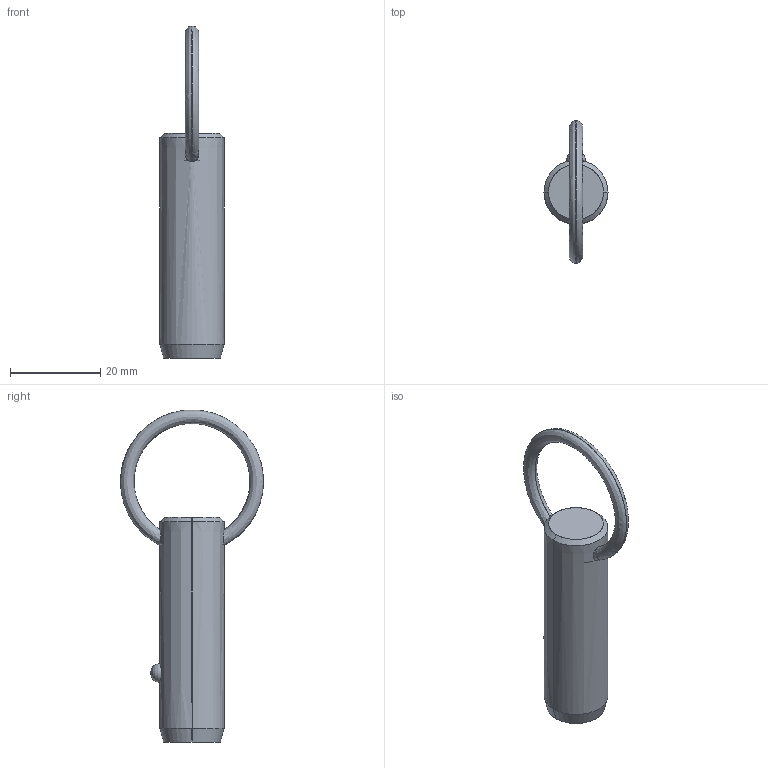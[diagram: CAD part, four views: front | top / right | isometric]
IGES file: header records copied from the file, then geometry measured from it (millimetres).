
Start section: SolidWorks IGES file using analytic representation for surfaces
Global section: file name: C:\Users\liam_\OneDrive\Documents\WORK\Work for WixRoyd\Job Files\J-00019 - Matt Davis CAD Checking\04. CAD Drawings\automotion20190605\P1250.2_v2\P1250.2_v2_20190729_IGES\Default.igs; native system: SolidWorks 2017; preprocessor: SolidWorks 2017; author: liam_; date: 190729.231438; units: millimetre
Bounding box: 14.2 x 31.69 x 73.59 mm (x, y, z)
Surface area: 3187.5 mm2 (no closed solid volume)
Topology: 0 solids, 0 shells, 12 faces, 285 edges, 283 vertices
Faces by surface type: revolution 8, bspline 4
